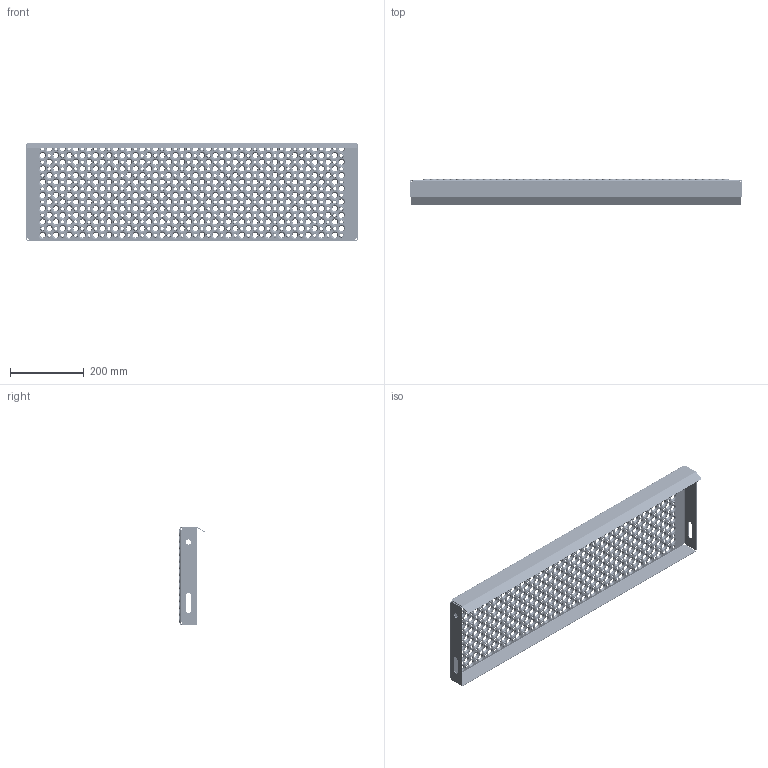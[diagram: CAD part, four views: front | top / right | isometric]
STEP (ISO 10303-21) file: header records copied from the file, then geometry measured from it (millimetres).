
FILE_DESCRIPTION (( 'STEP AP203' ), '1' );
FILE_NAME ('80242609G_Lejdertrin_265x900x45_mm_.STEP', '2015-06-09T04:38:27', ( '' ), ( '' ), 'SwSTEP 2.0', 'SolidWorks 2013', '' );
FILE_SCHEMA (( 'CONFIG_CONTROL_DESIGN' ));
Length unit declared in the file: millimetre
Products named in the file (1): 80242609G_Lejdertrin_265x900x45_mm_
Bounding box: 900 x 71.67 x 265 mm (x, y, z)
Volume: 669424.9 mm3; surface area: 722292.7 mm2
Topology: 1 solids, 1 shells, 3296 faces, 9198 edges, 5904 vertices
Faces by surface type: cone 1932, torus 1288, cylinder 36, plane 32, bspline 8
Full cylindrical faces by diameter (mm): 14 x2
Entity records: 76073 total; most frequent: DIRECTION 14510, CARTESIAN_POINT 11813, ORIENTED_EDGE 8088, EDGE_LOOP 7814, AXIS2_PLACEMENT_3D 7209, FACE_OUTER_BOUND 4586, EDGE_CURVE 4044, VERTEX_POINT 3972
